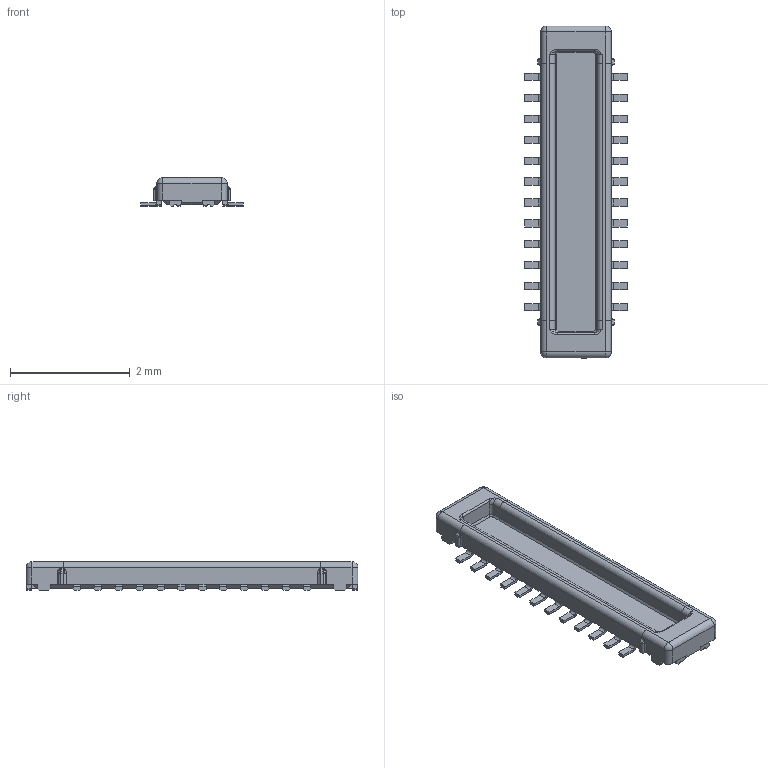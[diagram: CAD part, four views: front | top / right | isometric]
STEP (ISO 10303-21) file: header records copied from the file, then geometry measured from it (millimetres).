
FILE_DESCRIPTION (( 'STEP AP214' ), '1' );
FILE_NAME ('14_5861_024_024_829_+.STEP', '2015-11-12T01:50:27', ( '' ), ( '' ), 'SwSTEP 2.0', 'SolidWorks 2014', '' );
FILE_SCHEMA (( 'AUTOMOTIVE_DESIGN' ));
Length unit declared in the file: millimetre
Products named in the file (1): 14_5861_024_024_829_+
Bounding box: 1.72 x 5.55 x 0.48 mm (x, y, z)
Volume: 1.8 mm3; surface area: 24.2 mm2
Topology: 1 solids, 1 shells, 457 faces, 1218 edges, 748 vertices
Faces by surface type: plane 269, cylinder 112, cone 48, sphere 12, bspline 12, torus 4
Entity records: 18253 total; most frequent: CARTESIAN_POINT 2752, ORIENTED_EDGE 2404, DIRECTION 2294, EDGE_CURVE 1202, VECTOR 906, LINE 906, VERTEX_POINT 748, AXIS2_PLACEMENT_3D 694
